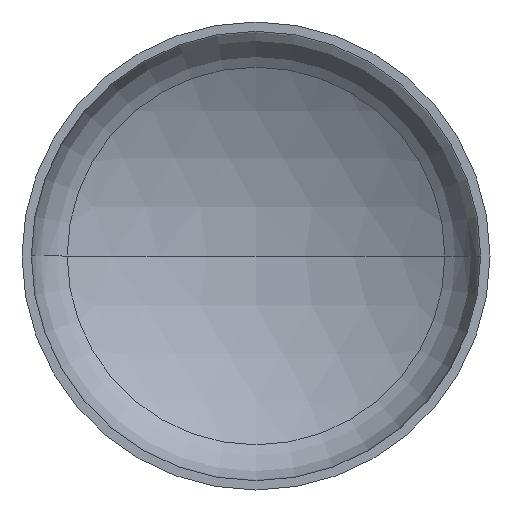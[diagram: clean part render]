
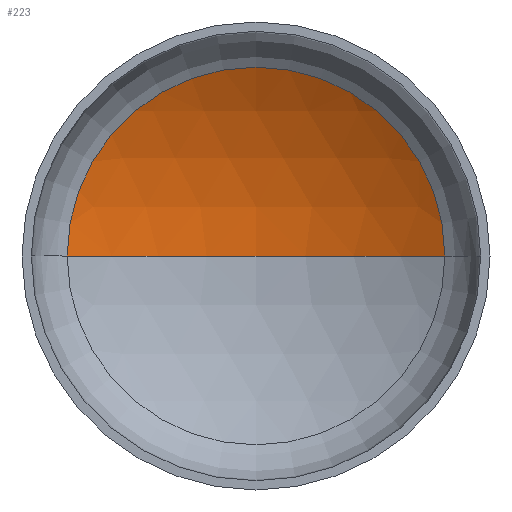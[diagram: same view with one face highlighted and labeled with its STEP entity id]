
A CAD part, front view. The second image highlights one B-rep face of the part: STEP entity #223.
In plain terms, the highlighted spherical face has radius 2720 mm.
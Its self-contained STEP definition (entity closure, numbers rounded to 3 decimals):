
#4 = ORIENTED_EDGE ( 'NONE', *, *, #361, .F. ) ;
#11 = CARTESIAN_POINT ( 'NONE',  ( 0., -1775.409, 0. ) ) ;
#15 = AXIS2_PLACEMENT_3D ( 'NONE', #11, #355, #176 ) ;
#17 = EDGE_LOOP ( 'NONE', ( #4, #39, #396 ) ) ;
#18 = AXIS2_PLACEMENT_3D ( 'NONE', #309, #54, #179 ) ;
#19 = AXIS2_PLACEMENT_3D ( 'NONE', #163, #335, #184 ) ;
#39 = ORIENTED_EDGE ( 'NONE', *, *, #357, .T. ) ;
#44 = VERTEX_POINT ( 'NONE', #276 ) ;
#47 = AXIS2_PLACEMENT_3D ( 'NONE', #285, #373, #254 ) ;
#54 = DIRECTION ( 'NONE',  ( 0., 0., -1. ) ) ;
#58 = VERTEX_POINT ( 'NONE', #243 ) ;
#67 = VERTEX_POINT ( 'NONE', #248 ) ;
#163 = CARTESIAN_POINT ( 'NONE',  ( 0., 573.344, 0. ) ) ;
#176 = DIRECTION ( 'NONE',  ( 1., 0., 0. ) ) ;
#178 = FACE_OUTER_BOUND ( 'NONE', #17, .T. ) ;
#179 = DIRECTION ( 'NONE',  ( -1., 0., 0. ) ) ;
#184 = DIRECTION ( 'NONE',  ( 1., 0., 0. ) ) ;
#200 = SPHERICAL_SURFACE ( 'NONE', #47, 2720. ) ;
#223 = ADVANCED_FACE ( 'NONE', ( #178 ), #200, .F. ) ;
#243 = CARTESIAN_POINT ( 'NONE',  ( 0., 944.591, 0. ) ) ;
#248 = CARTESIAN_POINT ( 'NONE',  ( -1371.772, 573.344, 0. ) ) ;
#252 = CIRCLE ( 'NONE', #18, 2720. ) ;
#254 = DIRECTION ( 'NONE',  ( -1., 0., 0. ) ) ;
#276 = CARTESIAN_POINT ( 'NONE',  ( 1371.772, 573.344, 0. ) ) ;
#285 = CARTESIAN_POINT ( 'NONE',  ( 0., -1775.409, 0. ) ) ;
#309 = CARTESIAN_POINT ( 'NONE',  ( 0., -1775.409, 0. ) ) ;
#335 = DIRECTION ( 'NONE',  ( 0., -1., 0. ) ) ;
#346 = CIRCLE ( 'NONE', #15, 2720. ) ;
#353 = CIRCLE ( 'NONE', #19, 1371.772 ) ;
#355 = DIRECTION ( 'NONE',  ( 0., 0., 1. ) ) ;
#356 = EDGE_CURVE ( 'NONE', #44, #67, #353, .T. ) ;
#357 = EDGE_CURVE ( 'NONE', #58, #44, #252, .T. ) ;
#361 = EDGE_CURVE ( 'NONE', #58, #67, #346, .T. ) ;
#373 = DIRECTION ( 'NONE',  ( 0., 0., -1. ) ) ;
#396 = ORIENTED_EDGE ( 'NONE', *, *, #356, .T. ) ;
